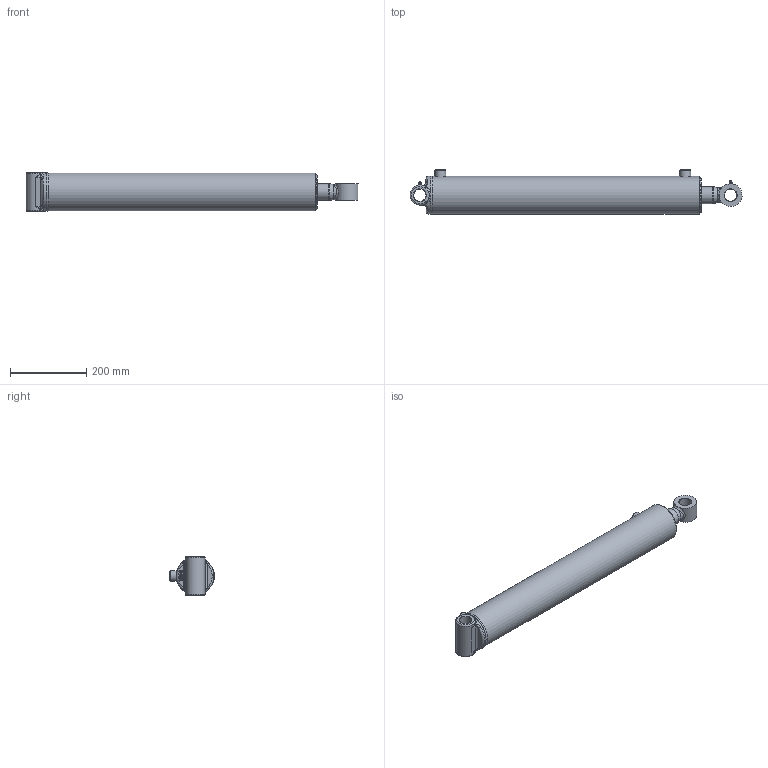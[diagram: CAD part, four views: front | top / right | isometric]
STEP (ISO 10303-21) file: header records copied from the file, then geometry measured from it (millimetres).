
FILE_DESCRIPTION(/* description */ ('Ø3.50 X 24.00 DA'),/* implementation_level */ '2;1');
FILE_NAME(/* name */ 'result.stp',/* time_stamp */ '2024-07-12T20:56:31Z',/* author */ ('AJC'),/* organization */ ('PRINCE MANUFACTURING'),/* preprocessor_version */ 'ST-DEVELOPER v20',/* originating_system */ 'Autodesk Inventor 2024',/* authorisation */ '');
FILE_SCHEMA (('AUTOMOTIVE_DESIGN { 1 0 10303 214 3 1 1 }'));
Length unit declared in the file: inch
Products named in the file (21): PC3524017A00-320XYXA; 0617-XYSF000-27570; 0517-T-27570; 161700179; 200015603; 06Weld1_C360; 0717-P-100; 220000210; 0817-G-175; 230025105; 230025005; 240000022; 240061338; 240000338; 0210A-HAW5-29687XA; 0110A-HAW5-29687; 210600529; 02Weld_C360; 240020007; 250014175; 270010020
Assembly tree (22 placements, depth 3):
  PC3524017A00-320XYXA
    0617-XYSF000-27570
      0517-T-27570
      161700179
      200015603  x2
      06Weld1_C360
    0717-P-100
    220000210
    0817-G-175
    230025105
    230025005
    240000022
    240061338
    240000338
    0210A-HAW5-29687XA
      0110A-HAW5-29687
      210600529
      02Weld_C360
    240020007
    250014175
    270010020  x2
Bounding box: 868.32 x 116.74 x 101.6 mm (x, y, z)
Volume: 2778014 mm3; surface area: 706892.8 mm2
Topology: 26 solids, 26 shells, 536 faces, 1281 edges, 823 vertices
Faces by surface type: plane 144, bspline 128, torus 89, cylinder 87, cone 84, sphere 4
Full cylindrical faces by diameter (mm): 2.143 x4, 3.175 x1, 5.359 x2, 6.35 x2, 9.525 x2, 12.649 x1, 12.7 x1, 12.725 x1, 17.323 x2, 23.444 x1, 25.349 x1, 25.476 x1, 27.965 x1, 28.575 x2, 32.131 x2, 44.45 x1, 44.526 x2, 45.644 x2, 46.482 x1, 46.838 x1, 51.613 x1, 52.807 x1, 54 x1, 55.626 x2, 57.15 x2, 61.976 x1, 69.85 x2, 79.477 x2, 80.213 x2, 83.82 x1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
Entity records: 29468 total; most frequent: CARTESIAN_POINT 17326, ORIENTED_EDGE 2352, DIRECTION 2142, EDGE_CURVE 1176, AXIS2_PLACEMENT_3D 908, VERTEX_POINT 762, EDGE_LOOP 572, FACE_OUTER_BOUND 492
